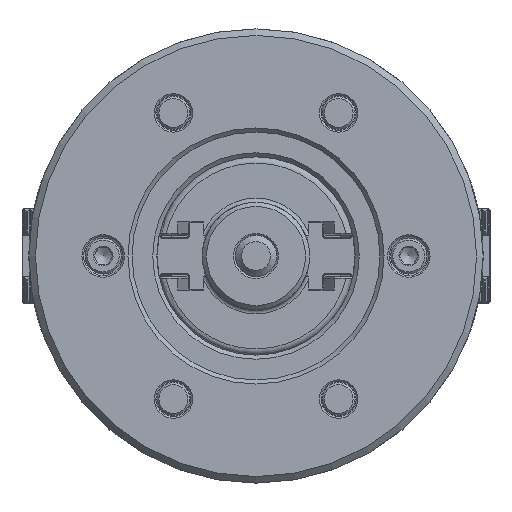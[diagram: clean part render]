
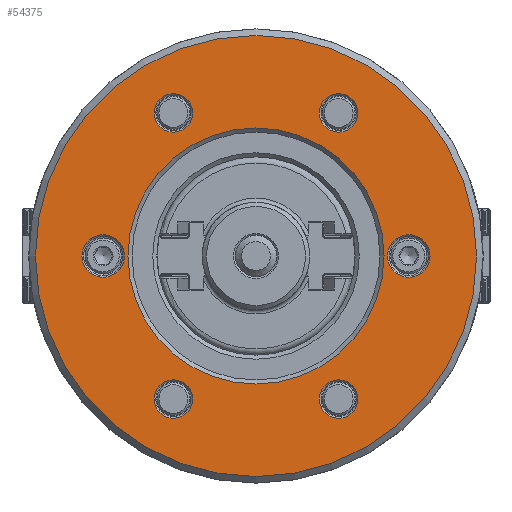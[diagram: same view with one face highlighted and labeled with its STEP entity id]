
A CAD part, left-side view. The second image highlights one B-rep face of the part: STEP entity #54375.
In plain terms, the highlighted planar face has unit normal (-1, 0, 0).
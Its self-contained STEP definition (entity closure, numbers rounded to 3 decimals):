
#2433 = EDGE_CURVE ( 'NONE', #17013, #17013, #26724, .T. ) ;
#2506 = FACE_BOUND ( 'NONE', #32136, .T. ) ;
#2872 = ORIENTED_EDGE ( 'NONE', *, *, #2433, .T. ) ;
#5335 = ORIENTED_EDGE ( 'NONE', *, *, #21046, .F. ) ;
#7250 = EDGE_LOOP ( 'NONE', ( #11565 ) ) ;
#8303 = DIRECTION ( 'NONE',  ( 1., 0., 0. ) ) ;
#8915 = CARTESIAN_POINT ( 'NONE',  ( -52., 0., 0. ) ) ;
#9053 = CARTESIAN_POINT ( 'NONE',  ( -52., -20., -39.291 ) ) ;
#10454 = CARTESIAN_POINT ( 'NONE',  ( -52., -20., 34.641 ) ) ;
#10472 = VERTEX_POINT ( 'NONE', #66964 ) ;
#10902 = CIRCLE ( 'NONE', #34767, 4.65 ) ;
#11313 = ORIENTED_EDGE ( 'NONE', *, *, #28156, .F. ) ;
#11565 = ORIENTED_EDGE ( 'NONE', *, *, #50375, .T. ) ;
#12127 = DIRECTION ( 'NONE',  ( 0., 0., -1. ) ) ;
#13442 = DIRECTION ( 'NONE',  ( -1., 0., 0. ) ) ;
#13586 = EDGE_LOOP ( 'NONE', ( #54841 ) ) ;
#14076 = DIRECTION ( 'NONE',  ( 0., 0., -1. ) ) ;
#14088 = CIRCLE ( 'NONE', #52101, 5.15 ) ;
#14159 = CARTESIAN_POINT ( 'NONE',  ( -52., 0., -31. ) ) ;
#15632 = ORIENTED_EDGE ( 'NONE', *, *, #47313, .T. ) ;
#16699 = ORIENTED_EDGE ( 'NONE', *, *, #19313, .F. ) ;
#17013 = VERTEX_POINT ( 'NONE', #40744 ) ;
#17286 = EDGE_CURVE ( 'NONE', #26429, #26429, #17839, .T. ) ;
#17437 = AXIS2_PLACEMENT_3D ( 'NONE', #39576, #8303, #14076 ) ;
#17839 = CIRCLE ( 'NONE', #52586, 4.65 ) ;
#18595 = CARTESIAN_POINT ( 'NONE',  ( -52., 20., -39.291 ) ) ;
#18838 = FACE_BOUND ( 'NONE', #29115, .T. ) ;
#18865 = EDGE_LOOP ( 'NONE', ( #15632 ) ) ;
#18921 = VERTEX_POINT ( 'NONE', #9053 ) ;
#19313 = EDGE_CURVE ( 'NONE', #10472, #10472, #26996, .T. ) ;
#21046 = EDGE_CURVE ( 'NONE', #31525, #31525, #30449, .T. ) ;
#21541 = ORIENTED_EDGE ( 'NONE', *, *, #48244, .T. ) ;
#22571 = DIRECTION ( 'NONE',  ( 0., 0., -1. ) ) ;
#22648 = CARTESIAN_POINT ( 'NONE',  ( -52., 0., 0. ) ) ;
#25018 = CIRCLE ( 'NONE', #47829, 31. ) ;
#25054 = AXIS2_PLACEMENT_3D ( 'NONE', #28694, #33452, #54874 ) ;
#26429 = VERTEX_POINT ( 'NONE', #52296 ) ;
#26451 = DIRECTION ( 'NONE',  ( 1., 0., 0. ) ) ;
#26724 = CIRCLE ( 'NONE', #35435, 4.65 ) ;
#26996 = CIRCLE ( 'NONE', #62870, 53.4 ) ;
#28156 = EDGE_CURVE ( 'NONE', #38314, #38314, #14088, .T. ) ;
#28694 = CARTESIAN_POINT ( 'NONE',  ( -52., 20., -34.641 ) ) ;
#29115 = EDGE_LOOP ( 'NONE', ( #2872 ) ) ;
#29362 = FACE_OUTER_BOUND ( 'NONE', #33058, .T. ) ;
#29632 = DIRECTION ( 'NONE',  ( 0., 0., -1. ) ) ;
#30449 = CIRCLE ( 'NONE', #65258, 5.15 ) ;
#31473 = EDGE_LOOP ( 'NONE', ( #11313 ) ) ;
#31525 = VERTEX_POINT ( 'NONE', #51634 ) ;
#31704 = CARTESIAN_POINT ( 'NONE',  ( -52., -37., 0. ) ) ;
#32136 = EDGE_LOOP ( 'NONE', ( #21541 ) ) ;
#32173 = DIRECTION ( 'NONE',  ( 1., 0., 0. ) ) ;
#33058 = EDGE_LOOP ( 'NONE', ( #16699 ) ) ;
#33179 = DIRECTION ( 'NONE',  ( 0., 0., -1. ) ) ;
#33439 = DIRECTION ( 'NONE',  ( 1., 0., 0. ) ) ;
#33452 = DIRECTION ( 'NONE',  ( 1., 0., 0. ) ) ;
#33849 = CARTESIAN_POINT ( 'NONE',  ( -52., 37., 0. ) ) ;
#34767 = AXIS2_PLACEMENT_3D ( 'NONE', #45358, #36157, #60659 ) ;
#34784 = CIRCLE ( 'NONE', #25054, 4.65 ) ;
#35136 = FACE_BOUND ( 'NONE', #59712, .T. ) ;
#35435 = AXIS2_PLACEMENT_3D ( 'NONE', #58027, #32173, #12127 ) ;
#36157 = DIRECTION ( 'NONE',  ( 1., 0., 0. ) ) ;
#36512 = DIRECTION ( 'NONE',  ( -1., 0., 0. ) ) ;
#38314 = VERTEX_POINT ( 'NONE', #63530 ) ;
#39240 = FACE_BOUND ( 'NONE', #13586, .T. ) ;
#39285 = DIRECTION ( 'NONE',  ( 0., 0., 1. ) ) ;
#39576 = CARTESIAN_POINT ( 'NONE',  ( -52., -53.4, 0. ) ) ;
#40660 = VERTEX_POINT ( 'NONE', #18595 ) ;
#40744 = CARTESIAN_POINT ( 'NONE',  ( -52., 20., 29.991 ) ) ;
#44677 = FACE_BOUND ( 'NONE', #7250, .T. ) ;
#45358 = CARTESIAN_POINT ( 'NONE',  ( -52., -20., -34.641 ) ) ;
#45773 = VERTEX_POINT ( 'NONE', #14159 ) ;
#47313 = EDGE_CURVE ( 'NONE', #18921, #18921, #10902, .T. ) ;
#47829 = AXIS2_PLACEMENT_3D ( 'NONE', #22648, #60371, #33179 ) ;
#48244 = EDGE_CURVE ( 'NONE', #45773, #45773, #25018, .T. ) ;
#50375 = EDGE_CURVE ( 'NONE', #40660, #40660, #34784, .T. ) ;
#51634 = CARTESIAN_POINT ( 'NONE',  ( -52., 37., 5.15 ) ) ;
#52101 = AXIS2_PLACEMENT_3D ( 'NONE', #31704, #36512, #57566 ) ;
#52296 = CARTESIAN_POINT ( 'NONE',  ( -52., -20., 29.991 ) ) ;
#52586 = AXIS2_PLACEMENT_3D ( 'NONE', #10454, #33439, #22571 ) ;
#54375 = ADVANCED_FACE ( 'NONE', ( #65133, #44677, #18838, #35136, #59982, #39240, #29362, #2506 ), #61001, .F. ) ;
#54841 = ORIENTED_EDGE ( 'NONE', *, *, #17286, .T. ) ;
#54874 = DIRECTION ( 'NONE',  ( 0., 0., -1. ) ) ;
#57566 = DIRECTION ( 'NONE',  ( 0., 0., 1. ) ) ;
#58027 = CARTESIAN_POINT ( 'NONE',  ( -52., 20., 34.641 ) ) ;
#59712 = EDGE_LOOP ( 'NONE', ( #5335 ) ) ;
#59982 = FACE_BOUND ( 'NONE', #18865, .T. ) ;
#60371 = DIRECTION ( 'NONE',  ( 1., 0., 0. ) ) ;
#60659 = DIRECTION ( 'NONE',  ( 0., 0., -1. ) ) ;
#61001 = PLANE ( 'NONE',  #17437 ) ;
#62870 = AXIS2_PLACEMENT_3D ( 'NONE', #8915, #26451, #29632 ) ;
#63530 = CARTESIAN_POINT ( 'NONE',  ( -52., -37., 5.15 ) ) ;
#65133 = FACE_BOUND ( 'NONE', #31473, .T. ) ;
#65258 = AXIS2_PLACEMENT_3D ( 'NONE', #33849, #13442, #39285 ) ;
#66964 = CARTESIAN_POINT ( 'NONE',  ( -52., 0., -53.4 ) ) ;
